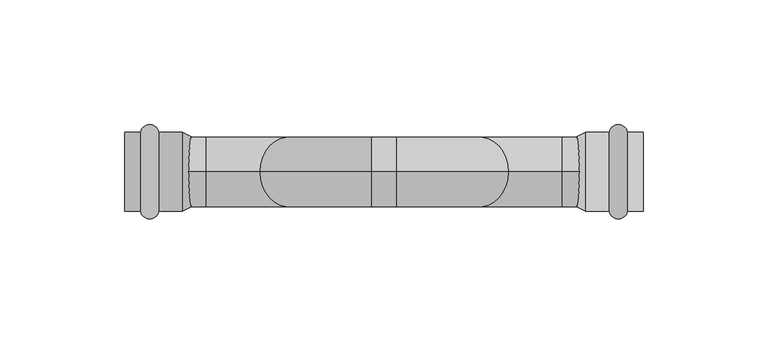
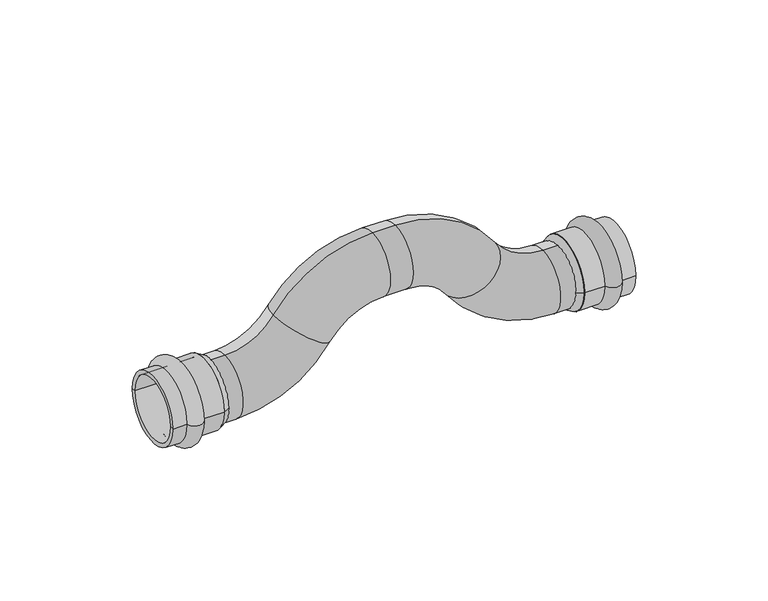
"""IFC4 building model written with IfcOpenShell, lengths in millimetres: pipe fitting geometry, VALTEC_VTi.971.I_Обвод (раструб–раструб)_Нержавеющая сталь : VTi.971.I."""

from ifc_helpers import new_model, si_unit, point, frame, origin, place, context, project, spatial, polyline, circle_curve, ellipse_curve, trimmed, source, transform, mapped, element, save
from ifc_brep_helpers import plane_surface, cylinder_surface, revolved_surface, advanced_brep


def pipe_fitting_6886d486(model_context):
    return source(origin(), model_context, "Body", "AdvancedBrep", [
        advanced_brep(
        [(-81.0, 0.0, -14.0), (-81.0, 0.0, 14.0), (-71.5, 0.0, -14.0), (-71.5, 0.0, 14.0), (-5.0, 0.0, 49.0), (-5.0, 0.0, 21.0), (5.0, 0.0, 21.0), (5.0, 0.0, 49.0), (81.0, 0.0, -14.0), (81.0, 0.0, 14.0), (71.5, 0.0, 14.0), (71.5, 0.0, -14.0), (-49.7901302, 0.0, 25.4262473), (-26.7098698, 0.0, 9.5737527), (49.7901302, 0.0, 25.4262473), (26.7098698, 0.0, 9.5737527)],
        [
            (0, 1, circle_curve(frame((-81.0, 0.0, 0.0), z_axis=(-1.0, 0.0, 0.0), x_axis=(0.0, 0.0, 1.0)), 14.0)),
            (1, 0, circle_curve(frame((-81.0, 0.0, 0.0), z_axis=(-1.0, 0.0, 0.0), x_axis=(0.0, 0.0, 1.0)), 14.0)),
            (0, 2),
            (2, 3, circle_curve(frame((-71.5, 0.0, 0.0), z_axis=(-1.0, 0.0, 0.0), x_axis=(0.0, 0.0, 1.0)), 14.0)),
            (3, 1),
            (3, 2, circle_curve(frame((-71.5, 0.0, 0.0), z_axis=(-1.0, 0.0, 0.0), x_axis=(0.0, 0.0, 1.0)), 14.0)),
            (4, 5, circle_curve(frame((-5.0, 0.0, 35.0), z_axis=(1.0, 0.0, 0.0), x_axis=(0.0, 0.0, 1.0)), 14.0)),
            (5, 6),
            (6, 7, circle_curve(frame((5.0, 0.0, 35.0), z_axis=(-1.0, 0.0, 0.0), x_axis=(0.0, 0.0, 1.0)), 14.0)),
            (7, 4),
            (5, 4, circle_curve(frame((-5.0, 0.0, 35.0), z_axis=(1.0, 0.0, 0.0), x_axis=(0.0, 0.0, 1.0)), 14.0)),
            (7, 6, circle_curve(frame((5.0, 0.0, 35.0), z_axis=(-1.0, 0.0, 0.0), x_axis=(0.0, 0.0, 1.0)), 14.0)),
            (8, 9, circle_curve(frame((81.0, 0.0, 0.0), z_axis=(1.0, 0.0, 0.0), x_axis=(0.0, 0.0, 1.0)), 14.0)),
            (9, 8, circle_curve(frame((81.0, 0.0, 0.0), z_axis=(1.0, 0.0, 0.0), x_axis=(0.0, 0.0, 1.0)), 14.0)),
            (10, 11, circle_curve(frame((71.5, 0.0, 0.0), z_axis=(1.0, 0.0, 0.0), x_axis=(0.0, 0.0, 1.0)), 14.0)),
            (11, 8),
            (9, 10),
            (11, 10, circle_curve(frame((71.5, 0.0, 0.0), z_axis=(1.0, 0.0, 0.0), x_axis=(0.0, 0.0, 1.0)), 14.0)),
            (12, 3, circle_curve(frame((-71.5, 0.0, 40.3375), z_axis=(0.0, 1.0, 0.0), x_axis=(0.0, 0.0, -1.0)), 26.3375)),
            (2, 13, circle_curve(frame((-71.5, 0.0, 40.3375), z_axis=(0.0, -1.0, 0.0), x_axis=(0.0, 0.0, -1.0)), 54.3375)),
            (13, 12, circle_curve(frame((-38.25, 0.0, 17.5), z_axis=(-0.5661605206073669, 0.0, -0.8242950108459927), x_axis=(-0.8242950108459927, 0.0, 0.5661605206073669)), 14.0)),
            (12, 13, circle_curve(frame((-38.25, 0.0, 17.5), z_axis=(-0.5661605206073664, 0.0, -0.824295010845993), x_axis=(-0.824295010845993, 0.0, 0.5661605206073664)), 14.0)),
            (4, 12, circle_curve(frame((-5.0, 0.0, -5.3375), z_axis=(0.0, -1.0, 0.0), x_axis=(-0.8242950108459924, 0.0, 0.5661605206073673)), 54.3375)),
            (13, 5, circle_curve(frame((-5.0, 0.0, -5.3375), z_axis=(0.0, 1.0, 0.0), x_axis=(-0.8242950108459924, 0.0, 0.5661605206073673)), 26.3375)),
            (14, 7, circle_curve(frame((5.0, 0.0, -5.3375), z_axis=(0.0, -1.0, 0.0), x_axis=(0.0, 0.0, 1.0)), 54.3375)),
            (6, 15, circle_curve(frame((5.0, 0.0, -5.3375), z_axis=(0.0, 1.0, 0.0), x_axis=(0.0, 0.0, 1.0)), 26.3375)),
            (15, 14, circle_curve(frame((38.25, 0.0, 17.5), z_axis=(-0.5661605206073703, 0.0, 0.8242950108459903), x_axis=(0.8242950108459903, 0.0, 0.5661605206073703)), 14.0)),
            (14, 15, circle_curve(frame((38.25, 0.0, 17.5), z_axis=(-0.5661605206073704, 0.0, 0.8242950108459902), x_axis=(0.8242950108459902, 0.0, 0.5661605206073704)), 14.0)),
            (10, 14, circle_curve(frame((71.5, 0.0, 40.3375), z_axis=(0.0, 1.0, 0.0), x_axis=(-0.8242950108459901, 0.0, -0.5661605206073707)), 26.3375)),
            (15, 11, circle_curve(frame((71.5, 0.0, 40.3375), z_axis=(0.0, -1.0, 0.0), x_axis=(-0.8242950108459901, 0.0, -0.5661605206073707)), 54.3375)),
        ],
        [
            plane_surface(frame((-81.0, 0.0, 0.0), z_axis=(-1.0, 0.0, 0.0), x_axis=(0.0, -1.0, 0.0))),
            cylinder_surface(frame((-81.0, 0.0, 0.0), z_axis=(-1.0, 0.0, 0.0), x_axis=(0.0, 0.0, 1.0)), 14.0),
            cylinder_surface(frame((-5.0, 0.0, 35.0), z_axis=(-1.0, 0.0, 0.0), x_axis=(0.0, 0.0, 1.0)), 14.0),
            plane_surface(frame((81.0, 0.0, 0.0), z_axis=(1.0, 0.0, 0.0), x_axis=(0.0, -1.0, 0.0))),
            cylinder_surface(frame((71.5, 0.0, 0.0), z_axis=(-1.0, 0.0, 0.0), x_axis=(0.0, 0.0, 1.0)), 14.0),
            revolved_surface(trimmed(ellipse_curve(frame((-71.5, 0.0, 0.0), z_axis=(-1.0, 0.0, 0.0), x_axis=(0.0, 0.0, 1.0)), 14.0, 14.0), [point((-71.5, 0.0, -14.0))], [point((-71.5, 0.0, 14.0))], True, "CARTESIAN"), (-71.5, 0.0, 40.3375), (0.0, -1.0, 0.0)),
            revolved_surface(trimmed(ellipse_curve(frame((-71.5, 0.0, 0.0), z_axis=(-1.0, 0.0, 0.0), x_axis=(0.0, 0.0, 1.0)), 14.0, 14.0), [point((-71.5, 0.0, 14.0))], [point((-71.5, 0.0, -14.0))], True, "CARTESIAN"), (-71.5, 0.0, 40.3375), (0.0, -1.0, 0.0)),
            revolved_surface(trimmed(ellipse_curve(frame((-38.25, 0.0, 17.5), z_axis=(-0.5661605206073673, 0.0, -0.8242950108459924), x_axis=(-0.8242950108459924, 0.0, 0.5661605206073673)), 14.0, 14.0), [point((-26.7098698, 0.0, 9.5737527))], [point((-49.7901302, 0.0, 25.4262473))], True, "CARTESIAN"), (-5.0, 0.0, -5.3375), (0.0, 1.0, 0.0)),
            revolved_surface(trimmed(ellipse_curve(frame((-38.25, 0.0, 17.5), z_axis=(-0.5661605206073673, 0.0, -0.8242950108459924), x_axis=(-0.8242950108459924, 0.0, 0.5661605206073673)), 14.0, 14.0), [point((-49.7901302, 0.0, 25.4262473))], [point((-26.7098698, 0.0, 9.5737527))], True, "CARTESIAN"), (-5.0, 0.0, -5.3375), (0.0, 1.0, 0.0)),
            revolved_surface(trimmed(ellipse_curve(frame((5.0, 0.0, 35.0), z_axis=(-1.0, 0.0, 0.0), x_axis=(0.0, 0.0, 1.0)), 14.0, 14.0), [point((5.0, 0.0, 21.0))], [point((5.0, 0.0, 49.0))], True, "CARTESIAN"), (5.0, 0.0, -5.3375), (0.0, 1.0, 0.0)),
            revolved_surface(trimmed(ellipse_curve(frame((5.0, 0.0, 35.0), z_axis=(-1.0, 0.0, 0.0), x_axis=(0.0, 0.0, 1.0)), 14.0, 14.0), [point((5.0, 0.0, 49.0))], [point((5.0, 0.0, 21.0))], True, "CARTESIAN"), (5.0, 0.0, -5.3375), (0.0, 1.0, 0.0)),
            revolved_surface(trimmed(ellipse_curve(frame((38.25, 0.0, 17.5), z_axis=(-0.5661605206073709, 0.0, 0.82429501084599), x_axis=(0.82429501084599, 0.0, 0.5661605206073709)), 14.0, 14.0), [point((26.7098698, 0.0, 9.5737527))], [point((49.7901302, 0.0, 25.4262473))], True, "CARTESIAN"), (71.5, 0.0, 40.3375), (0.0, -1.0, 0.0)),
            revolved_surface(trimmed(ellipse_curve(frame((38.25, 0.0, 17.5), z_axis=(-0.5661605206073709, 0.0, 0.82429501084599), x_axis=(0.82429501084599, 0.0, 0.5661605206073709)), 14.0, 14.0), [point((49.7901302, 0.0, 25.4262473))], [point((26.7098698, 0.0, 9.5737527))], True, "CARTESIAN"), (71.5, 0.0, 40.3375), (0.0, -1.0, 0.0)),
        ],
        [
            (0, [[1, 2]]),
            (1, [[-1, 3, 4, 5]]),
            (1, [[-2, -5, 6, -3]]),
            (2, [[7, 8, 9, 10]]),
            (2, [[11, -10, 12, -8]]),
            (3, [[13, 14]]),
            (4, [[15, 16, -14, 17]]),
            (4, [[18, -17, -13, -16]]),
            (5, [[19, -4, 20, 21]]),
            (6, [[-20, -6, -19, 22]]),
            (7, [[23, -21, 24, -7]]),
            (8, [[-24, -22, -23, -11]]),
            (9, [[25, -9, 26, 27]]),
            (10, [[-26, -12, -25, 28]]),
            (11, [[29, -27, 30, -15]]),
            (12, [[-30, -28, -29, -18]]),
        ],
    ),
        advanced_brep(
        [(97.6242346, -15.9, 0.0), (90.2757654, -15.9, 0.0), (90.2757654, 15.9, 0.0), (97.6242346, 15.9, 0.0), (104.0, -15.9, 0.0), (104.0, 15.9, 0.0), (104.0, -14.0, 0.0), (104.0, 14.0, 0.0), (81.0, -14.0, 0.0), (81.0, 14.0, 0.0), (81.0, -15.9, 0.0), (81.0, 15.9, 0.0)],
        [
            (0, 1, circle_curve(frame((93.95, -15.15, 0.0), z_axis=(0.0, 0.0, -1.0), x_axis=(-1.0, 0.0, 0.0)), 3.75)),
            (1, 2, circle_curve(frame((90.2757654, 0.0, 0.0), z_axis=(1.0, 0.0, 0.0), x_axis=(0.0, 1.0, 0.0)), 15.9)),
            (2, 3, circle_curve(frame((93.95, 15.15, 0.0), z_axis=(0.0, 0.0, -1.0), x_axis=(-1.0, 0.0, 0.0)), 3.75)),
            (3, 0, circle_curve(frame((97.6242346, 0.0, 0.0), z_axis=(-1.0, 0.0, 0.0), x_axis=(0.0, 1.0, 0.0)), 15.9)),
            (2, 1, circle_curve(frame((90.2757654, 0.0, 0.0), z_axis=(1.0, 0.0, 0.0), x_axis=(0.0, 1.0, 0.0)), 15.9)),
            (0, 3, circle_curve(frame((97.6242346, 0.0, 0.0), z_axis=(-1.0, 0.0, 0.0), x_axis=(0.0, 1.0, 0.0)), 15.9)),
            (4, 0),
            (3, 5),
            (5, 4, circle_curve(frame((104.0, 0.0, 0.0), z_axis=(-1.0, 0.0, 0.0), x_axis=(0.0, 1.0, 0.0)), 15.9)),
            (4, 5, circle_curve(frame((104.0, 0.0, 0.0), z_axis=(-1.0, 0.0, 0.0), x_axis=(0.0, 1.0, 0.0)), 15.9)),
            (6, 4),
            (5, 7),
            (7, 6, circle_curve(frame((104.0, 0.0, 0.0), z_axis=(-1.0, 0.0, 0.0), x_axis=(0.0, 1.0, 0.0)), 14.0)),
            (6, 7, circle_curve(frame((104.0, 0.0, 0.0), z_axis=(-1.0, 0.0, 0.0), x_axis=(0.0, 1.0, 0.0)), 14.0)),
            (8, 6),
            (7, 9),
            (9, 8, circle_curve(frame((81.0, 0.0, 0.0), z_axis=(-1.0, 0.0, 0.0), x_axis=(0.0, 1.0, 0.0)), 14.0)),
            (8, 9, circle_curve(frame((81.0, 0.0, 0.0), z_axis=(-1.0, 0.0, 0.0), x_axis=(0.0, 1.0, 0.0)), 14.0)),
            (10, 8),
            (9, 11),
            (11, 10, circle_curve(frame((81.0, 0.0, 0.0), z_axis=(-1.0, 0.0, 0.0), x_axis=(0.0, 1.0, 0.0)), 15.9)),
            (10, 11, circle_curve(frame((81.0, 0.0, 0.0), z_axis=(-1.0, 0.0, 0.0), x_axis=(0.0, 1.0, 0.0)), 15.9)),
            (1, 10),
            (11, 2),
        ],
        [
            revolved_surface(trimmed(ellipse_curve(frame((93.95, 15.15, 0.0), z_axis=(0.0, 0.0, -1.0), x_axis=(-1.0, 0.0, 0.0)), 3.75, 3.75), [point((90.2757654, 15.9, 0.0))], [point((97.6242346, 15.9, 0.0))], True, "CARTESIAN"), (107.5364426, 0.0, 0.0), (1.0, 0.0, 0.0)),
            cylinder_surface(frame((107.5364426, 0.0, 0.0), z_axis=(1.0, 0.0, 0.0), x_axis=(0.0, 1.0, 0.0)), 15.9),
            plane_surface(frame((104.0, 0.0, 0.0), z_axis=(1.0, 0.0, 0.0), x_axis=(0.0, 1.0, 0.0))),
            revolved_surface(polyline([(104.0, 14.0, 0.0), (81.0, 14.0, 0.0)]), (107.5364426, 0.0, 0.0), (1.0, 0.0, 0.0)),
            plane_surface(frame((81.0, 0.0, 0.0), z_axis=(-1.0, 0.0, 0.0), x_axis=(0.0, 1.0, 0.0))),
        ],
        [
            (0, [[1, 2, 3, 4]]),
            (0, [[-3, 5, -1, 6]]),
            (1, [[7, -4, 8, 9]]),
            (1, [[-8, -6, -7, 10]]),
            (2, [[11, -9, 12, 13]]),
            (2, [[-12, -10, -11, 14]]),
            (3, [[15, -13, 16, 17]]),
            (3, [[-16, -14, -15, 18]]),
            (4, [[19, -17, 20, 21]]),
            (4, [[-20, -18, -19, 22]]),
            (1, [[23, -21, 24, -2]]),
            (1, [[-24, -22, -23, -5]]),
        ],
    ),
        advanced_brep(
        [(-97.6242346, -15.9, 0.0), (-97.6242346, 15.9, 0.0), (-90.2757654, 15.9, 0.0), (-90.2757654, -15.9, 0.0), (-104.0, -15.9, 0.0), (-104.0, 15.9, 0.0), (-104.0, -14.0, 0.0), (-104.0, 14.0, 0.0), (-81.0, -14.0, 0.0), (-81.0, 14.0, 0.0), (-81.0, -15.9, 0.0), (-81.0, 15.9, 0.0)],
        [
            (0, 1, circle_curve(frame((-97.6242346, 0.0, 0.0), z_axis=(1.0, 0.0, 0.0), x_axis=(0.0, 1.0, 0.0)), 15.9)),
            (1, 2, circle_curve(frame((-93.95, 15.15, 0.0), z_axis=(0.0, 0.0, -1.0), x_axis=(1.0, 0.0, 0.0)), 3.75)),
            (2, 3, circle_curve(frame((-90.2757654, 0.0, 0.0), z_axis=(-1.0, 0.0, 0.0), x_axis=(0.0, 1.0, 0.0)), 15.9)),
            (3, 0, circle_curve(frame((-93.95, -15.15, 0.0), z_axis=(0.0, 0.0, -1.0), x_axis=(1.0, 0.0, 0.0)), 3.75)),
            (1, 0, circle_curve(frame((-97.6242346, 0.0, 0.0), z_axis=(1.0, 0.0, 0.0), x_axis=(0.0, 1.0, 0.0)), 15.9)),
            (3, 2, circle_curve(frame((-90.2757654, 0.0, 0.0), z_axis=(-1.0, 0.0, 0.0), x_axis=(0.0, 1.0, 0.0)), 15.9)),
            (4, 5, circle_curve(frame((-104.0, 0.0, 0.0), z_axis=(1.0, 0.0, 0.0), x_axis=(0.0, 1.0, 0.0)), 15.9)),
            (5, 1),
            (0, 4),
            (5, 4, circle_curve(frame((-104.0, 0.0, 0.0), z_axis=(1.0, 0.0, 0.0), x_axis=(0.0, 1.0, 0.0)), 15.9)),
            (6, 7, circle_curve(frame((-104.0, 0.0, 0.0), z_axis=(1.0, 0.0, 0.0), x_axis=(0.0, 1.0, 0.0)), 14.0)),
            (7, 5),
            (4, 6),
            (7, 6, circle_curve(frame((-104.0, 0.0, 0.0), z_axis=(1.0, 0.0, 0.0), x_axis=(0.0, 1.0, 0.0)), 14.0)),
            (8, 9, circle_curve(frame((-81.0, 0.0, 0.0), z_axis=(1.0, 0.0, 0.0), x_axis=(0.0, 1.0, 0.0)), 14.0)),
            (9, 7),
            (6, 8),
            (9, 8, circle_curve(frame((-81.0, 0.0, 0.0), z_axis=(1.0, 0.0, 0.0), x_axis=(0.0, 1.0, 0.0)), 14.0)),
            (10, 11, circle_curve(frame((-81.0, 0.0, 0.0), z_axis=(1.0, 0.0, 0.0), x_axis=(0.0, 1.0, 0.0)), 15.9)),
            (11, 9),
            (8, 10),
            (11, 10, circle_curve(frame((-81.0, 0.0, 0.0), z_axis=(1.0, 0.0, 0.0), x_axis=(0.0, 1.0, 0.0)), 15.9)),
            (2, 11),
            (10, 3),
        ],
        [
            revolved_surface(trimmed(ellipse_curve(frame((-93.95, 15.15, 0.0), z_axis=(0.0, 0.0, 1.0), x_axis=(1.0, 0.0, 0.0)), 3.75, 3.75), [point((-90.2757654, 15.9, 0.0))], [point((-97.6242346, 15.9, 0.0))], True, "CARTESIAN"), (-107.5364426, 0.0, 0.0), (-1.0, 0.0, 0.0)),
            cylinder_surface(frame((-107.5364426, 0.0, 0.0), z_axis=(-1.0, 0.0, 0.0), x_axis=(0.0, 1.0, 0.0)), 15.9),
            plane_surface(frame((-104.0, 0.0, 0.0), z_axis=(-1.0, 0.0, 0.0), x_axis=(0.0, 1.0, 0.0))),
            revolved_surface(polyline([(-104.0, 14.0, 0.0), (-81.0, 14.0, 0.0)]), (-107.5364426, 0.0, 0.0), (-1.0, 0.0, 0.0)),
            plane_surface(frame((-81.0, 0.0, 0.0), z_axis=(1.0, 0.0, 0.0), x_axis=(0.0, 1.0, 0.0))),
        ],
        [
            (0, [[1, 2, 3, 4]]),
            (0, [[5, -4, 6, -2]]),
            (1, [[7, 8, -1, 9]]),
            (1, [[10, -9, -5, -8]]),
            (2, [[11, 12, -7, 13]]),
            (2, [[14, -13, -10, -12]]),
            (3, [[15, 16, -11, 17]]),
            (3, [[18, -17, -14, -16]]),
            (4, [[19, 20, -15, 21]]),
            (4, [[22, -21, -18, -20]]),
            (1, [[-3, 23, -19, 24]]),
            (1, [[-6, -24, -22, -23]]),
        ],
    ),
        advanced_brep(
        [(81.0, 15.9, 0.0), (81.0, -15.9, 0.0), (77.3, 14.0, 0.0), (77.3, -14.0, 0.0)],
        [
            (0, 1, circle_curve(frame((81.0, 0.0, 0.0), z_axis=(1.0, 0.0, 0.0), x_axis=(0.0, 1.0, 0.0)), 15.9)),
            (1, 0, circle_curve(frame((81.0, 0.0, 0.0), z_axis=(1.0, 0.0, 0.0), x_axis=(0.0, -1.0, 0.0)), 15.9)),
            (2, 3, circle_curve(frame((77.3, 0.0, 0.0), z_axis=(-1.0, 0.0, 0.0), x_axis=(0.0, -1.0, 0.0)), 14.0)),
            (3, 2, circle_curve(frame((77.3, 0.0, 0.0), z_axis=(-1.0, 0.0, 0.0), x_axis=(0.0, 1.0, 0.0)), 14.0)),
            (1, 3),
            (2, 0),
        ],
        [
            plane_surface(frame((81.0, 0.0, 0.0), z_axis=(1.0, 0.0, 0.0), x_axis=(0.0, 0.0, -1.0))),
            plane_surface(frame((77.3, 0.0, 0.0), z_axis=(-1.0, 0.0, 0.0), x_axis=(0.0, 0.0, -1.0))),
            revolved_surface(polyline([(77.3, 14.000000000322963, 0.0), (81.0, 15.9, 0.0)]), (50.0368421, 0.0, 0.0), (1.0, 0.0, 0.0)),
            revolved_surface(polyline([(77.3, -14.000000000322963, 0.0), (81.0, -15.9, 0.0)]), (50.0368421, 0.0, 0.0), (1.0, 0.0, 0.0)),
        ],
        [
            (0, [[1, 2]]),
            (1, [[3, 4]]),
            (2, [[-2, 5, -3, 6]]),
            (3, [[-1, -6, -4, -5]]),
        ],
    ),
        advanced_brep(
        [(-81.0, 15.9, 0.0), (-81.0, -15.9, 0.0), (-77.3, 14.0, 0.0), (-77.3, -14.0, 0.0)],
        [
            (0, 1, circle_curve(frame((-81.0, 0.0, 0.0), z_axis=(-1.0, 0.0, 0.0), x_axis=(0.0, 1.0, 0.0)), 15.9)),
            (1, 0, circle_curve(frame((-81.0, 0.0, 0.0), z_axis=(-1.0, 0.0, 0.0), x_axis=(0.0, -1.0, 0.0)), 15.9)),
            (2, 3, circle_curve(frame((-77.3, 0.0, 0.0), z_axis=(1.0, 0.0, 0.0), x_axis=(0.0, -1.0, 0.0)), 14.0)),
            (3, 2, circle_curve(frame((-77.3, 0.0, 0.0), z_axis=(1.0, 0.0, 0.0), x_axis=(0.0, 1.0, 0.0)), 14.0)),
            (0, 2),
            (3, 1),
        ],
        [
            plane_surface(frame((-81.0, 0.0, 0.0), z_axis=(-1.0, 0.0, 0.0), x_axis=(0.0, 0.0, 1.0))),
            plane_surface(frame((-77.3, 0.0, 0.0), z_axis=(1.0, 0.0, 0.0), x_axis=(0.0, 0.0, 1.0))),
            revolved_surface(polyline([(-77.3, -14.000000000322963, 0.0), (-81.0, -15.9, 0.0)]), (-50.0368421, 0.0, 0.0), (-1.0, 0.0, 0.0)),
            revolved_surface(polyline([(-77.3, 14.000000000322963, 0.0), (-81.0, 15.9, 0.0)]), (-50.0368421, 0.0, 0.0), (-1.0, 0.0, 0.0)),
        ],
        [
            (0, [[1, 2]]),
            (1, [[3, 4]]),
            (2, [[-1, 5, -4, 6]]),
            (3, [[-2, -6, -3, -5]]),
        ],
    ),
    ])


if __name__ == "__main__":
    model = new_model("IFC4")
    model_context = context("Model", 3, world=origin())
    ifc_project = project(units=[si_unit("LENGTHUNIT", "METRE", prefix="MILLI")], contexts=[model_context])
    site = spatial("IfcSite", under=ifc_project)
    building = spatial("IfcBuilding", under=site)
    placement = place(None, origin())
    pipe_fitting_shape = pipe_fitting_6886d486(model_context)
    element("IfcPipeFitting", 1, ObjectType="VALTEC_VTi.971.I_Обвод (раструб–раструб)_Нержавеющая сталь : VTi.971.I", at=placement, inside=building, context=model_context, shape_type="MappedRepresentation", body=[
        mapped(pipe_fitting_shape, transform((0.0, 0.0, 0.0), x_axis=(1.0, 0.0, 0.0), y_axis=(0.0, 1.0, 0.0), z_axis=(0.0, 0.0, 1.0))),
    ])
    save(model, "model.ifc")
